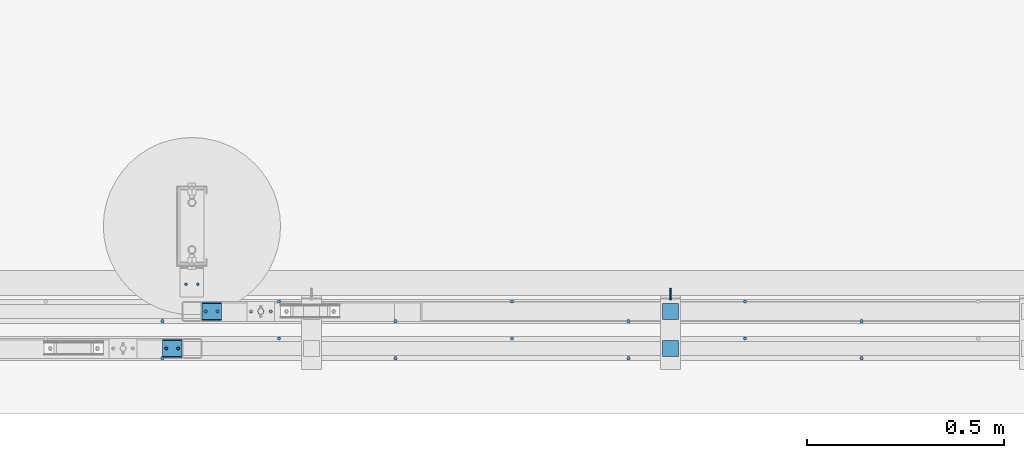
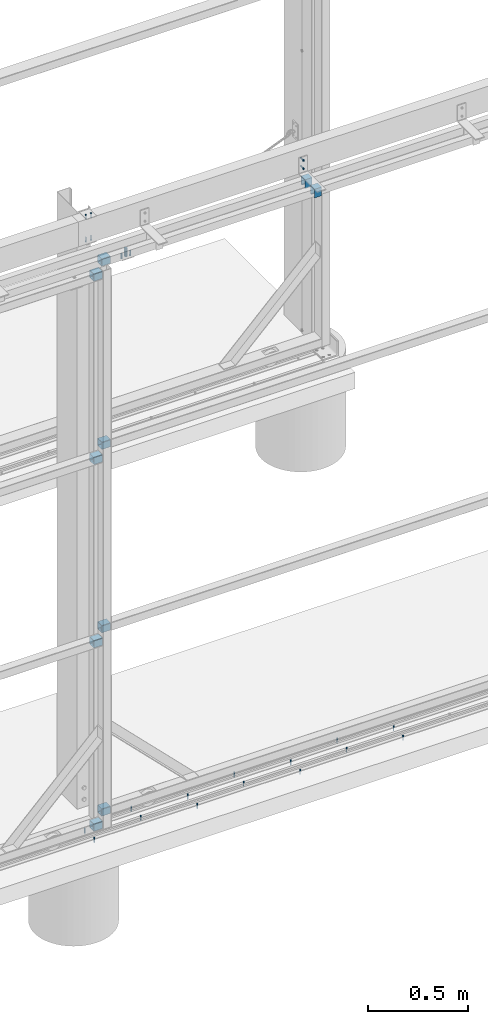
# One storey, part 47 of 91: 27 mechanical fasteners, 10 discrete accessories, 7 elements without a shape of their own.
"""IFC2X3 building model written with IfcOpenShell, lengths in millimetres."""

from ifc_helpers import new_model, si_unit, frame, origin_with_axes, origin_2d_with_axis, place, context, subcontext, project, spatial, polyline, hollow_rectangle, circle, c_section, outline, extrude, source, transform, mapped, material, type_object, element, aggregate, save


model = new_model("IFC2X3")

# Units and contexts
model_context = context("Model", 3, precision=1e-05, world=origin_with_axes())
body_context = subcontext(model_context, "Body", "Model", "MODEL_VIEW")
ifc_project = project(units=[si_unit("LENGTHUNIT", "METRE", prefix="MILLI"), si_unit("AREAUNIT", "SQUARE_METRE"), si_unit("VOLUMEUNIT", "CUBIC_METRE"), si_unit("MASSUNIT", "GRAM", prefix="KILO"), si_unit("TIMEUNIT", "SECOND"), si_unit("PLANEANGLEUNIT", "RADIAN"), si_unit("SOLIDANGLEUNIT", "STERADIAN"), si_unit("THERMODYNAMICTEMPERATUREUNIT", "DEGREE_CELSIUS"), si_unit("LUMINOUSINTENSITYUNIT", "LUMEN")], contexts=[model_context])

# Site, building, storey
site_placement = place(None, origin_with_axes())
site = spatial("IfcSite", under=ifc_project, at=site_placement, Name="Undefined", CompositionType="ELEMENT")
building_placement = place(site_placement, origin_with_axes())
building = spatial("IfcBuilding", under=site, at=building_placement, Name="Undefined", CompositionType="ELEMENT")
storey_placement = place(building_placement, origin_with_axes())
storey = spatial("IfcBuildingStorey", under=building, at=storey_placement, Name="Undefined", CompositionType="ELEMENT", Elevation=0.0)

# Assembly, mechanical fasteners
assembly_1_placement = place(storey_placement, origin_with_axes())
assembly_1 = element("IfcElementAssembly", 1, at=assembly_1_placement, inside=storey, Name="SLIDING DOOR", AssemblyPlace="NOTDEFINED", PredefinedType="RIGID_FRAME")
ifc_material_1 = material(Name="TEK_11TPIM")
discrete_accessory_type_1 = type_object("IfcDiscreteAccessoryType", Name="Bolt assembly")
shared_shape_1 = source(origin_with_axes(), body_context, "Body", "SweptSolid", [
    extrude(circle(Radius=3.0, at=origin_2d_with_axis()), frame((0.0, 0.0, 0.0), z_axis=(0.0, 1.0, 0.0), x_axis=(1.0, 0.0, 0.0)), (0.0, 0.0, 1.0), 2.1),
    extrude(outline(polyline([(4.61880215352, 0.0), (2.30940107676, 4.00000000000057), (-2.30940107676, 4.00000000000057), (-4.61880215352, 0.0), (-2.30940107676, -4.00000000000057), (2.30940107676, -4.00000000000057), (4.61880215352, 0.0)])), frame((0.0, -5.0, 0.0), z_axis=(0.0, 1.0, 0.0), x_axis=(1.0, 0.0, 0.0)), (0.0, 0.0, 1.0), 5.0),
    extrude(circle(Radius=3.0, at=origin_2d_with_axis()), frame((0.0, 0.0, 0.0), z_axis=(0.0, 1.0, 0.0), x_axis=(1.0, 0.0, 0.0)), (0.0, 0.0, 1.0), 25.0),
    extrude(circle(Radius=3.0, at=origin_2d_with_axis()), frame((0.0, 2.00000000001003, 0.0), z_axis=(0.0, 1.0, 0.0), x_axis=(1.0, 0.0, 0.0)), (0.0, 0.0, 1.0), 0.1),
    extrude(outline(polyline([(3.46410161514, 0.0), (1.73205080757, 3.00000000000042), (-1.73205080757, 3.00000000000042), (-3.46410161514, 0.0), (-1.73205080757, -3.00000000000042), (1.73205080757, -3.00000000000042), (3.46410161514, 0.0)])), frame((0.0, 2.10000000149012, 0.0), z_axis=(0.0, 1.0, 0.0), x_axis=(1.0, 0.0, 0.0)), (0.0, 0.0, 1.0), 0.1),
])
mechanical_fastener_1_placement = place(assembly_1_placement, frame((-110520.84, 84712.15, 3326.0), z_axis=(0.0, 1.0, 0.0), x_axis=(-1.0, 0.0, 0.0)))
mechanical_fastener_1 = element("IfcMechanicalFastener", 2, at=mechanical_fastener_1_placement, type_object=discrete_accessory_type_1, material=ifc_material_1, Name="Bolt assembly", NominalDiameter=6.0, NominalLength=25.0, context=body_context, shape_type="MappedRepresentation", body=[
    mapped(shared_shape_1, transform((0.0, 0.0, 0.0))),
])
mechanical_fastener_2_placement = place(assembly_1_placement, frame((-110570.84, 84712.15, 3326.0), z_axis=(0.0, -1.0, 0.0), x_axis=(1.0, 0.0, 0.0)))
mechanical_fastener_2 = element("IfcMechanicalFastener", 3, at=mechanical_fastener_2_placement, type_object=discrete_accessory_type_1, material=ifc_material_1, Name="Bolt assembly", NominalDiameter=6.0, NominalLength=25.0, context=body_context, shape_type="MappedRepresentation", body=[
    mapped(shared_shape_1, transform((0.0, 0.0, 0.0))),
])
ifc_material_2 = material(Name="8.8S")
shared_shape_2 = source(origin_with_axes(), body_context, "Body", "SweptSolid", [
    extrude(circle(Radius=8.0, at=origin_2d_with_axis()), frame((0.0, 0.0, 0.0), z_axis=(0.0, 1.0, 0.0), x_axis=(1.0, 0.0, 0.0)), (0.0, 0.0, 1.0), 50.1),
])
mechanical_fastener_3_placement = place(assembly_1_placement, frame((-110545.84, 84712.15, 3326.0), z_axis=(0.0, -1.0, 0.0), x_axis=(1.0, 0.0, 0.0)))
mechanical_fastener_3 = element("IfcMechanicalFastener", 4, at=mechanical_fastener_3_placement, type_object=discrete_accessory_type_1, material=ifc_material_2, Name="Bolt assembly", NominalDiameter=10.0, NominalLength=50.0, context=body_context, shape_type="MappedRepresentation", body=[
    mapped(shared_shape_2, transform((0.0, 0.0, 0.0))),
])
aggregate(assembly_1, [mechanical_fastener_1, mechanical_fastener_2, mechanical_fastener_3])

# Assembly, mechanical fastener
assembly_2_placement = place(storey_placement, origin_with_axes())
assembly_2 = element("IfcElementAssembly", 5, at=assembly_2_placement, inside=storey, Name="DOOR BRACKET", AssemblyPlace="NOTDEFINED", PredefinedType="RIGID_FRAME")
shared_shape_3 = source(origin_with_axes(), body_context, "Body", "SweptSolid", [
    extrude(circle(Radius=3.0, at=origin_2d_with_axis()), frame((0.0, -6.0, 0.0), z_axis=(0.0, 1.0, 0.0), x_axis=(1.0, 0.0, 0.0)), (0.0, 0.0, 1.0), 6.1),
    extrude(outline(polyline([(4.61880215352, 0.0), (2.30940107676, 4.00000000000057), (-2.30940107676, 4.00000000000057), (-4.61880215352, 0.0), (-2.30940107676, -4.00000000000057), (2.30940107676, -4.00000000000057), (4.61880215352, 0.0)])), frame((0.0, -11.1000000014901, 0.0), z_axis=(0.0, 1.0, 0.0), x_axis=(1.0, 0.0, 0.0)), (0.0, 0.0, 1.0), 5.0),
    extrude(circle(Radius=3.0, at=origin_2d_with_axis()), frame((0.0, -6.10000000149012, 0.0), z_axis=(0.0, 1.0, 0.0), x_axis=(1.0, 0.0, 0.0)), (0.0, 0.0, 1.0), 25.0),
    extrude(circle(Radius=3.0, at=origin_2d_with_axis()), frame((0.0, -6.10000000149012, 0.0), z_axis=(0.0, 1.0, 0.0), x_axis=(1.0, 0.0, 0.0)), (0.0, 0.0, 1.0), 0.1),
    extrude(circle(Radius=3.0, at=origin_2d_with_axis()), frame((0.0, 0.0, 0.0), z_axis=(0.0, 1.0, 0.0), x_axis=(1.0, 0.0, 0.0)), (0.0, 0.0, 1.0), 0.1),
    extrude(outline(polyline([(3.46410161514, 0.0), (1.73205080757, 3.00000000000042), (-1.73205080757, 3.00000000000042), (-3.46410161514, 0.0), (-1.73205080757, -3.00000000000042), (1.73205080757, -3.00000000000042), (3.46410161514, 0.0)])), frame((0.0, 0.1, 0.0), z_axis=(0.0, 1.0, 0.0), x_axis=(1.0, 0.0, 0.0)), (0.0, 0.0, 1.0), 0.1),
])
mechanical_fastener_4_placement = place(assembly_2_placement, frame((-109505.84, 84752.15, 3524.0), z_axis=(1.0, 0.0, 0.0), x_axis=(0.0, 0.0, -1.0)))
mechanical_fastener_4 = element("IfcMechanicalFastener", 6, at=mechanical_fastener_4_placement, type_object=discrete_accessory_type_1, material=ifc_material_1, Name="Bolt assembly", NominalDiameter=6.0, NominalLength=25.0, context=body_context, shape_type="MappedRepresentation", body=[
    mapped(shared_shape_3, transform((0.0, 0.0, 0.0))),
    mapped(shared_shape_3, transform((50.0, 0.0, 0.0))),
])

assembly_3_placement = place(storey_placement, origin_with_axes())
assembly_3 = element("IfcElementAssembly", 7, at=assembly_3_placement, inside=storey, Name="SLIDING DOOR", AssemblyPlace="NOTDEFINED", PredefinedType="RIGID_FRAME")
shared_shape_4 = source(origin_with_axes(), body_context, "Body", "SweptSolid", [
    extrude(circle(Radius=3.0, at=origin_2d_with_axis()), frame((0.0, 0.103333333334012, 0.0), z_axis=(0.0, 1.0, 0.0), x_axis=(1.0, 0.0, 0.0)), (0.0, 0.0, 1.0), 2.0),
    extrude(circle(Radius=3.0, at=origin_2d_with_axis()), frame((0.0, 2.4, 0.0), z_axis=(0.0, 1.0, 0.0), x_axis=(1.0, 0.0, 0.0)), (0.0, 0.0, 1.0), 1.7),
    extrude(outline(polyline([(4.61880215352, 0.0), (2.30940107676, 4.00000000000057), (-2.30940107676, 4.00000000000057), (-4.61880215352, 0.0), (-2.30940107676, -4.00000000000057), (2.30940107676, -4.00000000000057), (4.61880215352, 0.0)])), frame((0.0, -4.99666666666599, 0.0), z_axis=(0.0, 1.0, 0.0), x_axis=(1.0, 0.0, 0.0)), (0.0, 0.0, 1.0), 5.0),
    extrude(circle(Radius=3.0, at=origin_2d_with_axis()), frame((0.0, 0.0033333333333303, 0.0), z_axis=(0.0, 1.0, 0.0), x_axis=(1.0, 0.0, 0.0)), (0.0, 0.0, 1.0), 25.0),
    extrude(circle(Radius=3.0, at=origin_2d_with_axis()), frame((0.0, 4.10000002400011, 0.0), z_axis=(0.0, 1.0, 0.0), x_axis=(1.0, 0.0, 0.0)), (0.0, 0.0, 1.0), 0.1),
    extrude(outline(polyline([(3.46410161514, 0.0), (1.73205080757, 3.00000000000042), (-1.73205080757, 3.00000000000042), (-3.46410161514, 0.0), (-1.73205080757, -3.00000000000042), (1.73205080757, -3.00000000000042), (3.46410161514, 0.0)])), frame((0.0, 4.20000002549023, 0.0), z_axis=(0.0, 1.0, 0.0), x_axis=(1.0, 0.0, 0.0)), (0.0, 0.0, 1.0), 0.1),
])
mechanical_fastener_5_placement = place(assembly_3_placement, frame((-110785.84, 84618.15, 2211.66), z_axis=(0.0, -1.0, 0.0), x_axis=(1.0, 0.0, 0.0)))
mechanical_fastener_5 = element("IfcMechanicalFastener", 8, at=mechanical_fastener_5_placement, type_object=discrete_accessory_type_1, material=ifc_material_1, Name="Bolt assembly", NominalDiameter=6.0, NominalLength=25.0, context=body_context, shape_type="MappedRepresentation", body=[
    mapped(shared_shape_4, transform((0.0, 0.0, 0.0))),
    mapped(shared_shape_4, transform((30.0, 0.0, 0.0))),
])

assembly_4_placement = place(storey_placement, origin_with_axes())
assembly_4 = element("IfcElementAssembly", 9, at=assembly_4_placement, inside=storey, Name="SLIDING DOOR", AssemblyPlace="NOTDEFINED", PredefinedType="RIGID_FRAME")
shared_shape_5 = source(origin_with_axes(), body_context, "Body", "SweptSolid", [
    extrude(circle(Radius=3.0, at=origin_2d_with_axis()), frame((0.0, 0.0966666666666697, 0.0), z_axis=(0.0, 1.0, 0.0), x_axis=(1.0, 0.0, 0.0)), (0.0, 0.0, 1.0), 2.0),
    extrude(circle(Radius=3.0, at=origin_2d_with_axis()), frame((0.0, 2.4, 0.0), z_axis=(0.0, 1.0, 0.0), x_axis=(1.0, 0.0, 0.0)), (0.0, 0.0, 1.0), 1.7),
    extrude(outline(polyline([(4.61880215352, 0.0), (2.30940107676, 4.00000000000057), (-2.30940107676, 4.00000000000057), (-4.61880215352, 0.0), (-2.30940107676, -4.00000000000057), (2.30940107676, -4.00000000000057), (4.61880215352, 0.0)])), frame((0.0, -5.00333333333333, 0.0), z_axis=(0.0, 1.0, 0.0), x_axis=(1.0, 0.0, 0.0)), (0.0, 0.0, 1.0), 5.0),
    extrude(circle(Radius=3.0, at=origin_2d_with_axis()), frame((0.0, -0.0033333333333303, 0.0), z_axis=(0.0, 1.0, 0.0), x_axis=(1.0, 0.0, 0.0)), (0.0, 0.0, 1.0), 25.0),
    extrude(circle(Radius=3.0, at=origin_2d_with_axis()), frame((0.0, 4.10000002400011, 0.0), z_axis=(0.0, 1.0, 0.0), x_axis=(1.0, 0.0, 0.0)), (0.0, 0.0, 1.0), 0.1),
    extrude(outline(polyline([(3.46410161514, 0.0), (1.73205080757, 3.00000000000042), (-1.73205080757, 3.00000000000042), (-3.46410161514, 0.0), (-1.73205080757, -3.00000000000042), (1.73205080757, -3.00000000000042), (3.46410161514, 0.0)])), frame((0.0, 4.20000002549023, 0.0), z_axis=(0.0, 1.0, 0.0), x_axis=(1.0, 0.0, 0.0)), (0.0, 0.0, 1.0), 0.1),
])
mechanical_fastener_6_placement = place(assembly_4_placement, frame((-110685.84, 84712.15, 1097.34), z_axis=(0.0, -1.0, 0.0), x_axis=(1.0, 0.0, 0.0)))
mechanical_fastener_6 = element("IfcMechanicalFastener", 10, at=mechanical_fastener_6_placement, type_object=discrete_accessory_type_1, material=ifc_material_1, Name="Bolt assembly", NominalDiameter=6.0, NominalLength=25.0, context=body_context, shape_type="MappedRepresentation", body=[
    mapped(shared_shape_5, transform((0.0, 0.0, 0.0))),
    mapped(shared_shape_5, transform((30.0, 0.0, 0.0))),
])

# Mechanical fastener
mechanical_fastener_7_placement = place(assembly_3_placement, frame((-110785.84, 84618.15, 1097.34), z_axis=(0.0, -1.0, 0.0), x_axis=(1.0, 0.0, 0.0)))
mechanical_fastener_7 = element("IfcMechanicalFastener", 11, at=mechanical_fastener_7_placement, type_object=discrete_accessory_type_1, material=ifc_material_1, Name="Bolt assembly", NominalDiameter=6.0, NominalLength=25.0, context=body_context, shape_type="MappedRepresentation", body=[
    mapped(shared_shape_5, transform((0.0, 0.0, 0.0))),
    mapped(shared_shape_5, transform((30.0, 0.0, 0.0))),
])

ifc_material_3 = material(Name="TEK_16TPIM")
shared_shape_6 = source(origin_with_axes(), body_context, "Body", "SweptSolid", [
    extrude(circle(Radius=3.5, at=origin_2d_with_axis()), frame((0.0, 0.1, 0.0), z_axis=(0.0, 1.0, 0.0), x_axis=(1.0, 0.0, 0.0)), (0.0, 0.0, 1.0), 2.0),
    extrude(circle(Radius=3.5, at=origin_2d_with_axis()), frame((0.0, 2.4, 0.0), z_axis=(0.0, 1.0, 0.0), x_axis=(1.0, 0.0, 0.0)), (0.0, 0.0, 1.0), 1.7),
    extrude(outline(polyline([(4.04145188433, 0.0), (2.020725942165, 3.5000000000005), (-2.020725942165, 3.5000000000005), (-4.04145188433, 0.0), (-2.020725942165, -3.5000000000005), (2.020725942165, -3.5000000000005), (4.04145188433, 0.0)])), frame((0.0, -5.0, 0.0), z_axis=(0.0, 1.0, 0.0), x_axis=(1.0, 0.0, 0.0)), (0.0, 0.0, 1.0), 5.0),
    extrude(circle(Radius=2.5, at=origin_2d_with_axis()), frame((0.0, 0.0, 0.0), z_axis=(0.0, 1.0, 0.0), x_axis=(1.0, 0.0, 0.0)), (0.0, 0.0, 1.0), 25.0),
    extrude(circle(Radius=2.5, at=origin_2d_with_axis()), frame((0.0, 4.10000002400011, 0.0), z_axis=(0.0, 1.0, 0.0), x_axis=(1.0, 0.0, 0.0)), (0.0, 0.0, 1.0), 0.1),
    extrude(outline(polyline([(2.88675134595, 0.0), (1.443375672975, 2.50000000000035), (-1.443375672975, 2.50000000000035), (-2.88675134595, 0.0), (-1.443375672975, -2.50000000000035), (1.443375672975, -2.50000000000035), (2.88675134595, 0.0)])), frame((0.0, 4.20000002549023, 0.0), z_axis=(0.0, 1.0, 0.0), x_axis=(1.0, 0.0, 0.0)), (0.0, 0.0, 1.0), 0.1),
])
mechanical_fastener_8_placement = place(assembly_4_placement, frame((-110685.84, 84712.15, -17.0), z_axis=(0.0, -1.0, 0.0), x_axis=(1.0, 0.0, 0.0)))
mechanical_fastener_8 = element("IfcMechanicalFastener", 12, at=mechanical_fastener_8_placement, type_object=discrete_accessory_type_1, material=ifc_material_3, Name="Bolt assembly", NominalDiameter=5.0, NominalLength=25.0, context=body_context, shape_type="MappedRepresentation", body=[
    mapped(shared_shape_6, transform((0.0, 0.0, 0.0))),
    mapped(shared_shape_6, transform((30.0, 0.0, 0.0))),
])

mechanical_fastener_9_placement = place(assembly_3_placement, frame((-110785.84, 84618.15, -17.0), z_axis=(0.0, -1.0, 0.0), x_axis=(1.0, 0.0, 0.0)))
mechanical_fastener_9 = element("IfcMechanicalFastener", 13, at=mechanical_fastener_9_placement, type_object=discrete_accessory_type_1, material=ifc_material_3, Name="Bolt assembly", NominalDiameter=5.0, NominalLength=25.0, context=body_context, shape_type="MappedRepresentation", body=[
    mapped(shared_shape_6, transform((0.0, 0.0, 0.0))),
    mapped(shared_shape_6, transform((30.0, 0.0, 0.0))),
])

shared_shape_7 = source(origin_with_axes(), body_context, "Body", "SweptSolid", [
    extrude(circle(Radius=3.0, at=origin_2d_with_axis()), frame((0.0, 0.1, 0.0), z_axis=(0.0, 1.0, 0.0), x_axis=(1.0, 0.0, 0.0)), (0.0, 0.0, 1.0), 2.0),
    extrude(circle(Radius=3.0, at=origin_2d_with_axis()), frame((0.0, 2.4, 0.0), z_axis=(0.0, 1.0, 0.0), x_axis=(1.0, 0.0, 0.0)), (0.0, 0.0, 1.0), 1.7),
    extrude(outline(polyline([(4.61880215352, 0.0), (2.30940107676, 4.00000000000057), (-2.30940107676, 4.00000000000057), (-4.61880215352, 0.0), (-2.30940107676, -4.00000000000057), (2.30940107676, -4.00000000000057), (4.61880215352, 0.0)])), frame((0.0, -5.0, 0.0), z_axis=(0.0, 1.0, 0.0), x_axis=(1.0, 0.0, 0.0)), (0.0, 0.0, 1.0), 5.0),
    extrude(circle(Radius=3.0, at=origin_2d_with_axis()), frame((0.0, 0.0, 0.0), z_axis=(0.0, 1.0, 0.0), x_axis=(1.0, 0.0, 0.0)), (0.0, 0.0, 1.0), 25.0),
    extrude(circle(Radius=3.0, at=origin_2d_with_axis()), frame((0.0, 4.10000002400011, 0.0), z_axis=(0.0, 1.0, 0.0), x_axis=(1.0, 0.0, 0.0)), (0.0, 0.0, 1.0), 0.1),
    extrude(outline(polyline([(3.46410161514, 0.0), (1.73205080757, 3.00000000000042), (-1.73205080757, 3.00000000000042), (-3.46410161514, 0.0), (-1.73205080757, -3.00000000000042), (1.73205080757, -3.00000000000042), (3.46410161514, 0.0)])), frame((0.0, 4.20000002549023, 0.0), z_axis=(0.0, 1.0, 0.0), x_axis=(1.0, 0.0, 0.0)), (0.0, 0.0, 1.0), 0.1),
])
mechanical_fastener_10_placement = place(assembly_4_placement, frame((-110685.84, 84712.15, 3326.0), z_axis=(0.0, -1.0, 0.0), x_axis=(1.0, 0.0, 0.0)))
mechanical_fastener_10 = element("IfcMechanicalFastener", 14, at=mechanical_fastener_10_placement, type_object=discrete_accessory_type_1, material=ifc_material_1, Name="Bolt assembly", NominalDiameter=6.0, NominalLength=25.0, context=body_context, shape_type="MappedRepresentation", body=[
    mapped(shared_shape_7, transform((0.0, 0.0, 0.0))),
    mapped(shared_shape_7, transform((30.0, 0.0, 0.0))),
])

mechanical_fastener_11_placement = place(assembly_3_placement, frame((-110785.84, 84618.15, 3326.0), z_axis=(0.0, -1.0, 0.0), x_axis=(1.0, 0.0, 0.0)))
mechanical_fastener_11 = element("IfcMechanicalFastener", 15, at=mechanical_fastener_11_placement, type_object=discrete_accessory_type_1, material=ifc_material_1, Name="Bolt assembly", NominalDiameter=6.0, NominalLength=25.0, context=body_context, shape_type="MappedRepresentation", body=[
    mapped(shared_shape_7, transform((0.0, 0.0, 0.0))),
    mapped(shared_shape_7, transform((30.0, 0.0, 0.0))),
])

# Assembly, mechanical fasteners
assembly_5_placement = place(storey_placement, origin_with_axes())
assembly_5 = element("IfcElementAssembly", 16, at=assembly_5_placement, inside=storey, Name="DOOR TRACK", AssemblyPlace="NOTDEFINED", PredefinedType="RIGID_FRAME")
ifc_material_4 = material(Name="TEK_10TPII")
shared_shape_8 = source(origin_with_axes(), body_context, "Body", "SweptSolid", [
    extrude(circle(Radius=4.07999992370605, at=origin_2d_with_axis()), frame((0.0, 0.0, 0.0), z_axis=(0.0, 1.0, 0.0), x_axis=(1.0, 0.0, 0.0)), (0.0, 0.0, 1.0), 3.1),
    extrude(outline(polyline([(4.61880215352, 0.0), (2.30940107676, 4.00000000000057), (-2.30940107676, 4.00000000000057), (-4.61880215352, 0.0), (-2.30940107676, -4.00000000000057), (2.30940107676, -4.00000000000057), (4.61880215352, 0.0)])), frame((0.0, -5.0, 0.0), z_axis=(0.0, 1.0, 0.0), x_axis=(1.0, 0.0, 0.0)), (0.0, 0.0, 1.0), 5.0),
    extrude(circle(Radius=3.07999992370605, at=origin_2d_with_axis()), frame((0.0, 0.0, 0.0), z_axis=(0.0, 1.0, 0.0), x_axis=(1.0, 0.0, 0.0)), (0.0, 0.0, 1.0), 25.0),
    extrude(circle(Radius=3.0, at=origin_2d_with_axis()), frame((0.0, 3.0, 0.0), z_axis=(0.0, 1.0, 0.0), x_axis=(1.0, 0.0, 0.0)), (0.0, 0.0, 1.0), 0.1),
    extrude(outline(polyline([(3.46410161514, 0.0), (1.73205080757, 3.00000000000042), (-1.73205080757, 3.00000000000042), (-3.46410161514, 0.0), (-1.73205080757, -3.00000000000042), (1.73205080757, -3.00000000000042), (3.46410161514, 0.0)])), frame((0.0, 3.10000000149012, 0.0), z_axis=(0.0, 1.0, 0.0), x_axis=(1.0, 0.0, 0.0)), (0.0, 0.0, 1.0), 0.1),
])
mechanical_fastener_12_placement = place(assembly_5_placement, frame((-109020.44, 84687.151953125, -54.0), z_axis=(0.0, 1.0, 0.0), x_axis=(1.0, 0.0, 0.0)))
mechanical_fastener_12 = element("IfcMechanicalFastener", 17, at=mechanical_fastener_12_placement, type_object=discrete_accessory_type_1, material=ifc_material_4, Name="Bolt assembly", NominalDiameter=6.15999984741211, NominalLength=25.0, context=body_context, shape_type="MappedRepresentation", body=[
    mapped(shared_shape_8, transform((0.0, 0.0, 0.0))),
])
mechanical_fastener_13_placement = place(assembly_5_placement, frame((-109316.34, 84737.151953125, -54.0), z_axis=(0.0, 1.0, 0.0), x_axis=(1.0, 0.0, 0.0)))
mechanical_fastener_13 = element("IfcMechanicalFastener", 18, at=mechanical_fastener_13_placement, type_object=discrete_accessory_type_1, material=ifc_material_4, Name="Bolt assembly", NominalDiameter=6.15999984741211, NominalLength=25.0, context=body_context, shape_type="MappedRepresentation", body=[
    mapped(shared_shape_8, transform((0.0, 0.0, 0.0))),
])
mechanical_fastener_14_placement = place(assembly_5_placement, frame((-109612.24, 84687.151953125, -54.0), z_axis=(0.0, 1.0, 0.0), x_axis=(1.0, 0.0, 0.0)))
mechanical_fastener_14 = element("IfcMechanicalFastener", 19, at=mechanical_fastener_14_placement, type_object=discrete_accessory_type_1, material=ifc_material_4, Name="Bolt assembly", NominalDiameter=6.15999984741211, NominalLength=25.0, context=body_context, shape_type="MappedRepresentation", body=[
    mapped(shared_shape_8, transform((0.0, 0.0, 0.0))),
])
mechanical_fastener_15_placement = place(assembly_5_placement, frame((-109908.14, 84737.151953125, -54.0), z_axis=(0.0, 1.0, 0.0), x_axis=(1.0, 0.0, 0.0)))
mechanical_fastener_15 = element("IfcMechanicalFastener", 20, at=mechanical_fastener_15_placement, type_object=discrete_accessory_type_1, material=ifc_material_4, Name="Bolt assembly", NominalDiameter=6.15999984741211, NominalLength=25.0, context=body_context, shape_type="MappedRepresentation", body=[
    mapped(shared_shape_8, transform((0.0, 0.0, 0.0))),
])
mechanical_fastener_16_placement = place(assembly_5_placement, frame((-110204.04, 84687.151953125, -54.0), z_axis=(0.0, 1.0, 0.0), x_axis=(1.0, 0.0, 0.0)))
mechanical_fastener_16 = element("IfcMechanicalFastener", 21, at=mechanical_fastener_16_placement, type_object=discrete_accessory_type_1, material=ifc_material_4, Name="Bolt assembly", NominalDiameter=6.15999984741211, NominalLength=25.0, context=body_context, shape_type="MappedRepresentation", body=[
    mapped(shared_shape_8, transform((0.0, 0.0, 0.0))),
])
mechanical_fastener_17_placement = place(assembly_5_placement, frame((-110499.94, 84737.151953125, -54.0), z_axis=(0.0, 1.0, 0.0), x_axis=(1.0, 0.0, 0.0)))
mechanical_fastener_17 = element("IfcMechanicalFastener", 22, at=mechanical_fastener_17_placement, type_object=discrete_accessory_type_1, material=ifc_material_4, Name="Bolt assembly", NominalDiameter=6.15999984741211, NominalLength=25.0, context=body_context, shape_type="MappedRepresentation", body=[
    mapped(shared_shape_8, transform((0.0, 0.0, 0.0))),
])
mechanical_fastener_18_placement = place(assembly_5_placement, frame((-110795.84, 84687.151953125, -54.0), z_axis=(0.0, 1.0, 0.0), x_axis=(1.0, 0.0, 0.0)))
mechanical_fastener_18 = element("IfcMechanicalFastener", 23, at=mechanical_fastener_18_placement, type_object=discrete_accessory_type_1, material=ifc_material_4, Name="Bolt assembly", NominalDiameter=6.15999984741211, NominalLength=25.0, context=body_context, shape_type="MappedRepresentation", body=[
    mapped(shared_shape_8, transform((0.0, 0.0, 0.0))),
])
aggregate(assembly_5, [mechanical_fastener_12, mechanical_fastener_13, mechanical_fastener_14, mechanical_fastener_15, mechanical_fastener_16, mechanical_fastener_17, mechanical_fastener_18])

assembly_6_placement = place(storey_placement, origin_with_axes())
assembly_6 = element("IfcElementAssembly", 24, at=assembly_6_placement, inside=storey, Name="DOOR TRACK", AssemblyPlace="NOTDEFINED", PredefinedType="RIGID_FRAME")
mechanical_fastener_19_placement = place(assembly_6_placement, frame((-109020.44, 84593.151953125, -54.0), z_axis=(0.0, 1.0, 0.0), x_axis=(1.0, 0.0, 0.0)))
mechanical_fastener_19 = element("IfcMechanicalFastener", 25, at=mechanical_fastener_19_placement, type_object=discrete_accessory_type_1, material=ifc_material_4, Name="Bolt assembly", NominalDiameter=6.15999984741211, NominalLength=25.0, context=body_context, shape_type="MappedRepresentation", body=[
    mapped(shared_shape_8, transform((0.0, 0.0, 0.0))),
])
mechanical_fastener_20_placement = place(assembly_6_placement, frame((-109316.34, 84643.151953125, -54.0), z_axis=(0.0, 1.0, 0.0), x_axis=(1.0, 0.0, 0.0)))
mechanical_fastener_20 = element("IfcMechanicalFastener", 26, at=mechanical_fastener_20_placement, type_object=discrete_accessory_type_1, material=ifc_material_4, Name="Bolt assembly", NominalDiameter=6.15999984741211, NominalLength=25.0, context=body_context, shape_type="MappedRepresentation", body=[
    mapped(shared_shape_8, transform((0.0, 0.0, 0.0))),
])
mechanical_fastener_21_placement = place(assembly_6_placement, frame((-109612.24, 84593.151953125, -54.0), z_axis=(0.0, 1.0, 0.0), x_axis=(1.0, 0.0, 0.0)))
mechanical_fastener_21 = element("IfcMechanicalFastener", 27, at=mechanical_fastener_21_placement, type_object=discrete_accessory_type_1, material=ifc_material_4, Name="Bolt assembly", NominalDiameter=6.15999984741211, NominalLength=25.0, context=body_context, shape_type="MappedRepresentation", body=[
    mapped(shared_shape_8, transform((0.0, 0.0, 0.0))),
])
mechanical_fastener_22_placement = place(assembly_6_placement, frame((-109908.14, 84643.151953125, -54.0), z_axis=(0.0, 1.0, 0.0), x_axis=(1.0, 0.0, 0.0)))
mechanical_fastener_22 = element("IfcMechanicalFastener", 28, at=mechanical_fastener_22_placement, type_object=discrete_accessory_type_1, material=ifc_material_4, Name="Bolt assembly", NominalDiameter=6.15999984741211, NominalLength=25.0, context=body_context, shape_type="MappedRepresentation", body=[
    mapped(shared_shape_8, transform((0.0, 0.0, 0.0))),
])
mechanical_fastener_23_placement = place(assembly_6_placement, frame((-110204.04, 84593.151953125, -54.0), z_axis=(0.0, 1.0, 0.0), x_axis=(1.0, 0.0, 0.0)))
mechanical_fastener_23 = element("IfcMechanicalFastener", 29, at=mechanical_fastener_23_placement, type_object=discrete_accessory_type_1, material=ifc_material_4, Name="Bolt assembly", NominalDiameter=6.15999984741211, NominalLength=25.0, context=body_context, shape_type="MappedRepresentation", body=[
    mapped(shared_shape_8, transform((0.0, 0.0, 0.0))),
])
mechanical_fastener_24_placement = place(assembly_6_placement, frame((-110499.94, 84643.151953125, -54.0), z_axis=(0.0, 1.0, 0.0), x_axis=(1.0, 0.0, 0.0)))
mechanical_fastener_24 = element("IfcMechanicalFastener", 30, at=mechanical_fastener_24_placement, type_object=discrete_accessory_type_1, material=ifc_material_4, Name="Bolt assembly", NominalDiameter=6.15999984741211, NominalLength=25.0, context=body_context, shape_type="MappedRepresentation", body=[
    mapped(shared_shape_8, transform((0.0, 0.0, 0.0))),
])
mechanical_fastener_25_placement = place(assembly_6_placement, frame((-110795.84, 84593.151953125, -54.0), z_axis=(0.0, 1.0, 0.0), x_axis=(1.0, 0.0, 0.0)))
mechanical_fastener_25 = element("IfcMechanicalFastener", 31, at=mechanical_fastener_25_placement, type_object=discrete_accessory_type_1, material=ifc_material_4, Name="Bolt assembly", NominalDiameter=6.15999984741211, NominalLength=25.0, context=body_context, shape_type="MappedRepresentation", body=[
    mapped(shared_shape_8, transform((0.0, 0.0, 0.0))),
])
aggregate(assembly_6, [mechanical_fastener_19, mechanical_fastener_20, mechanical_fastener_21, mechanical_fastener_22, mechanical_fastener_23, mechanical_fastener_24, mechanical_fastener_25])

assembly_7_placement = place(storey_placement, origin_with_axes())
assembly_7 = element("IfcElementAssembly", 32, at=assembly_7_placement, inside=storey, Name="FASCIA BRACKET", AssemblyPlace="NOTDEFINED", PredefinedType="RIGID_FRAME")
shared_shape_9 = source(origin_with_axes(), body_context, "Body", "SweptSolid", [
    extrude(circle(Radius=3.5, at=origin_2d_with_axis()), frame((0.0, -2.59999694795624, 0.0), z_axis=(0.0, 1.0, 0.0), x_axis=(1.0, 0.0, 0.0)), (0.0, 0.0, 1.0), 1.7),
    extrude(outline(polyline([(4.04145188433, 0.0), (2.020725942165, 3.5000000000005), (-2.020725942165, 3.5000000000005), (-4.04145188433, 0.0), (-2.020725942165, -3.5000000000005), (2.020725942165, -3.5000000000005), (4.04145188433, 0.0)])), frame((0.0, -7.69999694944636, 0.0), z_axis=(0.0, 1.0, 0.0), x_axis=(1.0, 0.0, 0.0)), (0.0, 0.0, 1.0), 5.0),
    extrude(circle(Radius=2.5, at=origin_2d_with_axis()), frame((0.0, -2.69999694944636, 0.0), z_axis=(0.0, 1.0, 0.0), x_axis=(1.0, 0.0, 0.0)), (0.0, 0.0, 1.0), 25.0),
    extrude(circle(Radius=2.5, at=origin_2d_with_axis()), frame((0.0, -2.69999694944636, 0.0), z_axis=(0.0, 1.0, 0.0), x_axis=(1.0, 0.0, 0.0)), (0.0, 0.0, 1.0), 0.1),
    extrude(circle(Radius=2.5, at=origin_2d_with_axis()), frame((0.0, -1.0, 0.0), z_axis=(0.0, 1.0, 0.0), x_axis=(1.0, 0.0, 0.0)), (0.0, 0.0, 1.0), 0.1),
    extrude(outline(polyline([(2.88675134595, 0.0), (1.443375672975, 2.50000000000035), (-1.443375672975, 2.50000000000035), (-2.88675134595, 0.0), (-1.443375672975, -2.50000000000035), (1.443375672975, -2.50000000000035), (2.88675134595, 0.0)])), frame((0.0, -0.899996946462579, 0.0), z_axis=(0.0, 1.0, 0.0), x_axis=(1.0, 0.0, 0.0)), (0.0, 0.0, 1.0), 0.1),
])
mechanical_fastener_26_placement = place(assembly_7_placement, frame((-110720.839999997, 84781.1443174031, 3444.01835367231), z_axis=(-1.0, 0.0, 0.0), x_axis=(0.0, -1.0, 0.0)))
mechanical_fastener_26 = element("IfcMechanicalFastener", 33, at=mechanical_fastener_26_placement, type_object=discrete_accessory_type_1, material=ifc_material_3, Name="Bolt assembly", NominalDiameter=5.0, NominalLength=25.0, context=body_context, shape_type="MappedRepresentation", body=[
    mapped(shared_shape_9, transform((0.0, 0.0, -15.0))),
    mapped(shared_shape_9, transform((0.0, 0.0, 15.0))),
])
mechanical_fastener_27_placement = place(assembly_7_placement, frame((-110720.839999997, 84781.1444547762, 3596.01835367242), z_axis=(1.0, 0.0, 0.0), x_axis=(0.0, -1.0, 0.0)))
mechanical_fastener_27 = element("IfcMechanicalFastener", 34, at=mechanical_fastener_27_placement, type_object=discrete_accessory_type_1, material=ifc_material_3, Name="Bolt assembly", NominalDiameter=5.0, NominalLength=25.0, context=body_context, shape_type="MappedRepresentation", body=[
    mapped(shared_shape_9, transform((0.0, 0.0, -15.0))),
    mapped(shared_shape_9, transform((0.0, 0.0, 15.0))),
])
aggregate(assembly_7, [mechanical_fastener_26, mechanical_fastener_27])

# Discrete accessory
ifc_material_5 = material(Name="STEEL/250")
discrete_accessory_type_2 = type_object("IfcDiscreteAccessoryType", Name="SLIDING DOOR BRACKET")
discrete_accessory_1_placement = place(assembly_2_placement, frame((-109525.84, 84618.15, 3417.5), z_axis=(0.0, -1.0, 0.0), x_axis=(1.0, 0.0, 0.0)))
discrete_accessory_1 = element("IfcDiscreteAccessory", 35, at=discrete_accessory_1_placement, type_object=discrete_accessory_type_2, material=ifc_material_5, Name="SLIDING DOOR BRACKET", ObjectType="CC41-1.5-7-53", context=body_context, shape_type="SweptSolid", body=[
    extrude(c_section(Depth=41.0, Width=53.0, WallThickness=1.5, Girth=7.0, at=origin_2d_with_axis()), frame((40.0, 0.0, 0.0), z_axis=(-1.0, 0.0, 0.0), x_axis=(0.0, -1.0, 0.0)), (0.0, 0.0, 1.0), 40.0),
])

discrete_accessory_2_placement = place(assembly_2_placement, frame((-109525.84, 84712.15, 3417.5), z_axis=(0.0, -1.0, 0.0), x_axis=(1.0, 0.0, 0.0)))
discrete_accessory_2 = element("IfcDiscreteAccessory", 36, at=discrete_accessory_2_placement, type_object=discrete_accessory_type_2, material=ifc_material_5, Name="SLIDING DOOR BRACKET", ObjectType="CC41-1.5-7-53", context=body_context, shape_type="SweptSolid", body=[
    extrude(c_section(Depth=41.0, Width=53.0, WallThickness=1.5, Girth=7.0, at=origin_2d_with_axis()), frame((40.0, 0.0, 0.0), z_axis=(-1.0, 0.0, 0.0), x_axis=(0.0, -1.0, 0.0)), (0.0, 0.0, 1.0), 40.0),
])

aggregate(assembly_2, [mechanical_fastener_4, discrete_accessory_1, discrete_accessory_2])

ifc_material_6 = material(Name="STEEL/300")
discrete_accessory_type_3 = type_object("IfcDiscreteAccessoryType", Name="SLIDING DOOR")
discrete_accessory_3_placement = place(assembly_4_placement, frame((-110645.84, 84712.15, 3351.0), z_axis=(0.0, -1.0, 0.0), x_axis=(-1.0, 0.0, 0.0)))
discrete_accessory_3 = element("IfcDiscreteAccessory", 37, at=discrete_accessory_3_placement, type_object=discrete_accessory_type_3, material=ifc_material_6, Name="SLIDING DOOR", ObjectType="SHS:45X45X1.6", context=body_context, shape_type="SweptSolid", body=[
    extrude(hollow_rectangle(XDim=45.0, YDim=45.0, WallThickness=1.600000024, InnerFilletRadius=1.600000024, OuterFilletRadius=3.200000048, at=origin_2d_with_axis()), frame((50.0, 0.0, 0.0), z_axis=(-1.0, 0.0, 0.0), x_axis=(0.0, -1.0, 0.0)), (0.0, 0.0, 1.0), 50.0),
])

discrete_accessory_4_placement = place(assembly_4_placement, frame((-110645.84, 84712.15, 2236.66), z_axis=(0.0, -1.0, 0.0), x_axis=(-1.0, 0.0, 0.0)))
discrete_accessory_4 = element("IfcDiscreteAccessory", 38, at=discrete_accessory_4_placement, type_object=discrete_accessory_type_3, material=ifc_material_6, Name="SLIDING DOOR", ObjectType="SHS:45X45X1.6", context=body_context, shape_type="SweptSolid", body=[
    extrude(hollow_rectangle(XDim=45.0, YDim=45.0, WallThickness=1.600000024, InnerFilletRadius=1.600000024, OuterFilletRadius=3.200000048, at=origin_2d_with_axis()), frame((50.0, 0.0, 0.0), z_axis=(-1.0, 0.0, 0.0), x_axis=(0.0, -1.0, 0.0)), (0.0, 0.0, 1.0), 50.0),
])

discrete_accessory_5_placement = place(assembly_4_placement, frame((-110645.84, 84712.15, 1122.34), z_axis=(0.0, -1.0, 0.0), x_axis=(-1.0, 0.0, 0.0)))
discrete_accessory_5 = element("IfcDiscreteAccessory", 39, at=discrete_accessory_5_placement, type_object=discrete_accessory_type_3, material=ifc_material_6, Name="SLIDING DOOR", ObjectType="SHS:45X45X1.6", context=body_context, shape_type="SweptSolid", body=[
    extrude(hollow_rectangle(XDim=45.0, YDim=45.0, WallThickness=1.600000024, InnerFilletRadius=1.600000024, OuterFilletRadius=3.200000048, at=origin_2d_with_axis()), frame((50.0, 0.0, 0.0), z_axis=(-1.0, 0.0, 0.0), x_axis=(0.0, -1.0, 0.0)), (0.0, 0.0, 1.0), 50.0),
])

discrete_accessory_6_placement = place(assembly_4_placement, frame((-110645.84, 84712.15, 8.0), z_axis=(0.0, -1.0, 0.0), x_axis=(-1.0, 0.0, 0.0)))
discrete_accessory_6 = element("IfcDiscreteAccessory", 40, at=discrete_accessory_6_placement, type_object=discrete_accessory_type_3, material=ifc_material_6, Name="SLIDING DOOR", ObjectType="SHS:45X45X1.6", context=body_context, shape_type="SweptSolid", body=[
    extrude(hollow_rectangle(XDim=45.0, YDim=45.0, WallThickness=1.600000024, InnerFilletRadius=1.600000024, OuterFilletRadius=3.200000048, at=origin_2d_with_axis()), frame((50.0, 0.0, 0.0), z_axis=(-1.0, 0.0, 0.0), x_axis=(0.0, -1.0, 0.0)), (0.0, 0.0, 1.0), 50.0),
])

aggregate(assembly_4, [mechanical_fastener_6, mechanical_fastener_8, mechanical_fastener_10, discrete_accessory_3, discrete_accessory_4, discrete_accessory_5, discrete_accessory_6])

discrete_accessory_7_placement = place(assembly_3_placement, frame((-110745.84, 84618.15, 3351.0), z_axis=(0.0, -1.0, 0.0), x_axis=(-1.0, 0.0, 0.0)))
discrete_accessory_7 = element("IfcDiscreteAccessory", 41, at=discrete_accessory_7_placement, type_object=discrete_accessory_type_3, material=ifc_material_6, Name="SLIDING DOOR", ObjectType="SHS:45X45X1.6", context=body_context, shape_type="SweptSolid", body=[
    extrude(hollow_rectangle(XDim=45.0, YDim=45.0, WallThickness=1.600000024, InnerFilletRadius=1.600000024, OuterFilletRadius=3.200000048, at=origin_2d_with_axis()), frame((50.0, 0.0, 0.0), z_axis=(-1.0, 0.0, 0.0), x_axis=(0.0, -1.0, 0.0)), (0.0, 0.0, 1.0), 50.0),
])

discrete_accessory_8_placement = place(assembly_3_placement, frame((-110745.84, 84618.15, 2236.66), z_axis=(0.0, -1.0, 0.0), x_axis=(-1.0, 0.0, 0.0)))
discrete_accessory_8 = element("IfcDiscreteAccessory", 42, at=discrete_accessory_8_placement, type_object=discrete_accessory_type_3, material=ifc_material_6, Name="SLIDING DOOR", ObjectType="SHS:45X45X1.6", context=body_context, shape_type="SweptSolid", body=[
    extrude(hollow_rectangle(XDim=45.0, YDim=45.0, WallThickness=1.600000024, InnerFilletRadius=1.600000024, OuterFilletRadius=3.200000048, at=origin_2d_with_axis()), frame((50.0, 0.0, 0.0), z_axis=(-1.0, 0.0, 0.0), x_axis=(0.0, -1.0, 0.0)), (0.0, 0.0, 1.0), 50.0),
])

discrete_accessory_9_placement = place(assembly_3_placement, frame((-110745.84, 84618.15, 1122.34), z_axis=(0.0, -1.0, 0.0), x_axis=(-1.0, 0.0, 0.0)))
discrete_accessory_9 = element("IfcDiscreteAccessory", 43, at=discrete_accessory_9_placement, type_object=discrete_accessory_type_3, material=ifc_material_6, Name="SLIDING DOOR", ObjectType="SHS:45X45X1.6", context=body_context, shape_type="SweptSolid", body=[
    extrude(hollow_rectangle(XDim=45.0, YDim=45.0, WallThickness=1.600000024, InnerFilletRadius=1.600000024, OuterFilletRadius=3.200000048, at=origin_2d_with_axis()), frame((50.0, 0.0, 0.0), z_axis=(-1.0, 0.0, 0.0), x_axis=(0.0, -1.0, 0.0)), (0.0, 0.0, 1.0), 50.0),
])

discrete_accessory_10_placement = place(assembly_3_placement, frame((-110745.84, 84618.15, 8.0), z_axis=(0.0, -1.0, 0.0), x_axis=(-1.0, 0.0, 0.0)))
discrete_accessory_10 = element("IfcDiscreteAccessory", 44, at=discrete_accessory_10_placement, type_object=discrete_accessory_type_3, material=ifc_material_6, Name="SLIDING DOOR", ObjectType="SHS:45X45X1.6", context=body_context, shape_type="SweptSolid", body=[
    extrude(hollow_rectangle(XDim=45.0, YDim=45.0, WallThickness=1.600000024, InnerFilletRadius=1.600000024, OuterFilletRadius=3.200000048, at=origin_2d_with_axis()), frame((50.0, 0.0, 0.0), z_axis=(-1.0, 0.0, 0.0), x_axis=(0.0, -1.0, 0.0)), (0.0, 0.0, 1.0), 50.0),
])

aggregate(assembly_3, [mechanical_fastener_5, mechanical_fastener_7, mechanical_fastener_9, mechanical_fastener_11, discrete_accessory_7, discrete_accessory_8, discrete_accessory_9, discrete_accessory_10])

save(model, "model.ifc")
